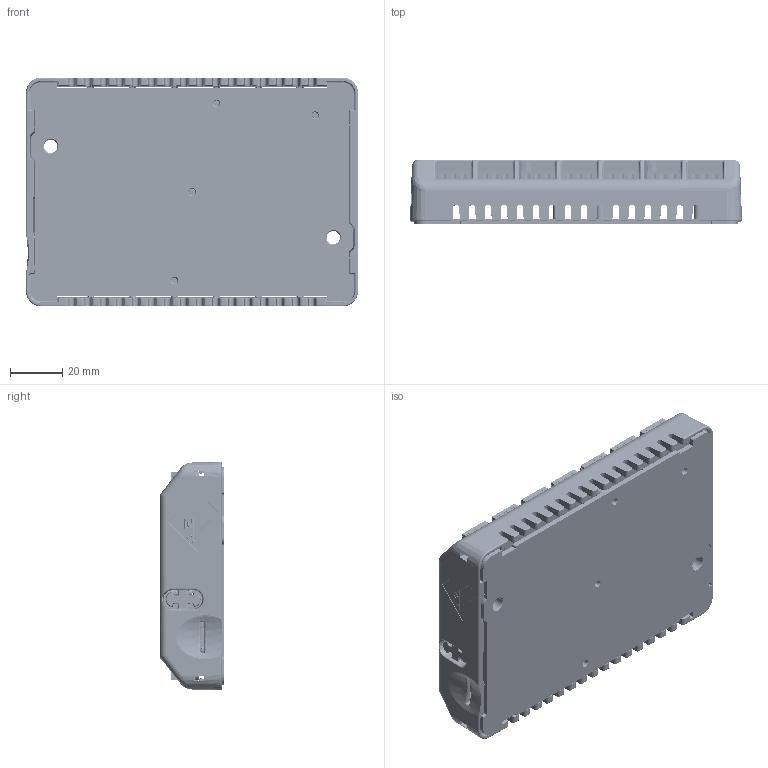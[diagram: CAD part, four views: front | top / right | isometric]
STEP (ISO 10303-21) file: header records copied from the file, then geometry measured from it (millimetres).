
FILE_DESCRIPTION (( 'STEP AP214' ), '1' );
FILE_NAME ('CLNK-4-13.step', '2026-01-16T21:12:24', ( '' ), ( '' ), 'SwSTEP 2.0', 'SolidWorks 2020', '' );
FILE_SCHEMA (( 'AUTOMOTIVE_DESIGN' ));
Length unit declared in the file: inch
Products named in the file (1): CLNK-4-13
Bounding box: 126.86 x 24.52 x 87.49 mm (x, y, z)
Volume: 93145.5 mm3; surface area: 117400 mm2
Topology: 34 solids, 35 shells, 15403 faces, 41087 edges, 25655 vertices
Faces by surface type: plane 9446, cylinder 3281, bspline 1767, cone 348, torus 312, sphere 249
Entity records: 767242 total; most frequent: CARTESIAN_POINT 200160, ORIENTED_EDGE 81502, DIRECTION 69218, EDGE_CURVE 40751, LINE 29414, VECTOR 29414, VERTEX_POINT 25651, AXIS2_PLACEMENT_3D 19902
